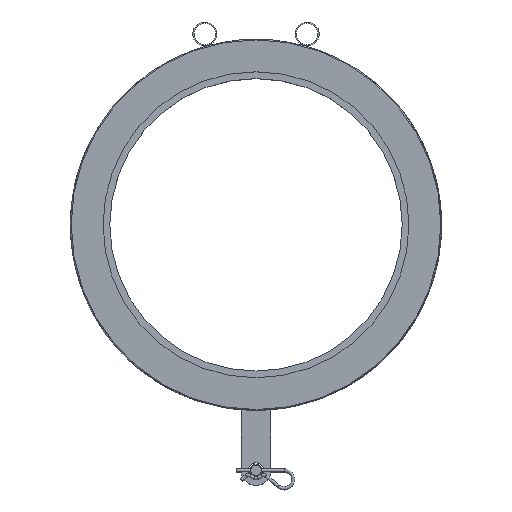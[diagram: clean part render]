
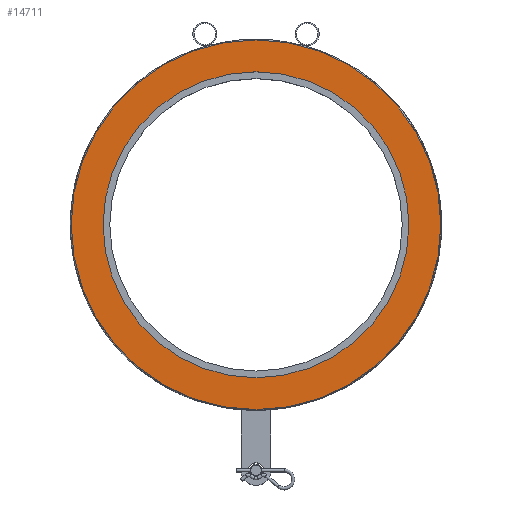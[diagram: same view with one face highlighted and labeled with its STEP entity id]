
A CAD part, top view. The second image highlights one B-rep face of the part: STEP entity #14711.
In plain terms, the highlighted planar face has unit normal (0, 0, 1).
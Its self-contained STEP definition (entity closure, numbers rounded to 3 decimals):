
#475=FACE_BOUND('',#3238,.T.);
#1555=PLANE('',#15536);
#2345=FACE_OUTER_BOUND('',#3237,.T.);
#3237=EDGE_LOOP('',(#13487));
#3238=EDGE_LOOP('',(#13488));
#5688=CIRCLE('',#15532,204.);
#5689=CIRCLE('',#15534,246.5);
#7113=VERTEX_POINT('',#34431);
#7114=VERTEX_POINT('',#34435);
#9252=EDGE_CURVE('',#7113,#7113,#5688,.T.);
#9254=EDGE_CURVE('',#7114,#7114,#5689,.T.);
#13487=ORIENTED_EDGE('',*,*,#9254,.F.);
#13488=ORIENTED_EDGE('',*,*,#9252,.T.);
#14711=ADVANCED_FACE('',(#2345,#475),#1555,.T.);
#15532=AXIS2_PLACEMENT_3D('',#34432,#18111,#18112);
#15534=AXIS2_PLACEMENT_3D('',#34436,#18116,#18117);
#15536=AXIS2_PLACEMENT_3D('',#34439,#18121,#18122);
#18111=DIRECTION('center_axis',(0.,0.,
-1.));
#18112=DIRECTION('ref_axis',(-1.,0.,0.));
#18116=DIRECTION('center_axis',(0.,0.,
-1.));
#18117=DIRECTION('ref_axis',(-1.,0.,0.));
#18121=DIRECTION('center_axis',(0.,0.,
1.));
#18122=DIRECTION('ref_axis',(-1.,0.,0.));
#34431=CARTESIAN_POINT('',(204.,0.,112.));
#34432=CARTESIAN_POINT('Origin',(0.,0.,
112.));
#34435=CARTESIAN_POINT('',(246.5,0.,112.));
#34436=CARTESIAN_POINT('Origin',(0.,0.,
112.));
#34439=CARTESIAN_POINT('Origin',(0.,0.,
112.));
